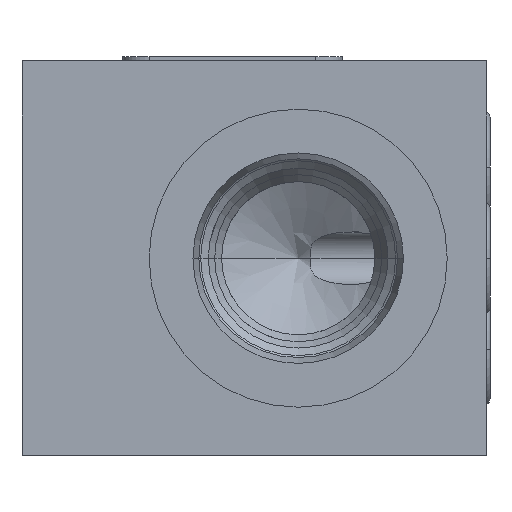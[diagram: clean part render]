
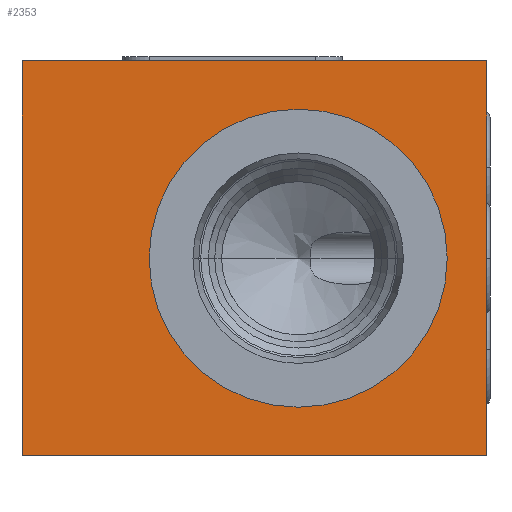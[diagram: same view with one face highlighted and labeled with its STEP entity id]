
A CAD part, left-side view. The second image highlights one B-rep face of the part: STEP entity #2353.
In plain terms, the highlighted planar face has unit normal (-1, 0, 0).
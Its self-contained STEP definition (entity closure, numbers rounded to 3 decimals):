
#53=DIRECTION('',(0.,0.,-1.));
#54=VECTOR('',#53,45.);
#55=CARTESIAN_POINT('',(0.,0.,0.));
#56=LINE('',#55,#54);
#60=DIRECTION('',(0.,1.,0.));
#61=VECTOR('',#60,53.);
#62=CARTESIAN_POINT('',(0.,0.,-45.));
#63=LINE('',#62,#61);
#67=DIRECTION('',(0.,0.,1.));
#68=VECTOR('',#67,45.);
#69=CARTESIAN_POINT('',(0.,53.,-45.));
#70=LINE('',#69,#68);
#74=DIRECTION('',(0.,-1.,0.));
#75=VECTOR('',#74,53.);
#76=CARTESIAN_POINT('',(0.,53.,0.));
#77=LINE('',#76,#75);
#81=CARTESIAN_POINT('',(0.,21.5,-22.5));
#82=DIRECTION('',(1.,0.,0.));
#83=DIRECTION('',(0.,-1.,0.));
#84=AXIS2_PLACEMENT_3D('',#81,#82,#83);
#89=CARTESIAN_POINT('',(0.,21.5,-22.5));
#90=DIRECTION('',(1.,0.,0.));
#91=DIRECTION('',(0.,1.,0.));
#92=AXIS2_PLACEMENT_3D('',#89,#90,#91);
#2095=CARTESIAN_POINT('',(0.,0.,0.));
#2096=CARTESIAN_POINT('',(0.,0.,-45.));
#2097=VERTEX_POINT('',#2095);
#2098=VERTEX_POINT('',#2096);
#2099=CARTESIAN_POINT('',(0.,53.,-45.));
#2100=VERTEX_POINT('',#2099);
#2101=CARTESIAN_POINT('',(0.,53.,0.));
#2102=VERTEX_POINT('',#2101);
#2278=CARTESIAN_POINT('',(0.,4.5,-22.5));
#2279=VERTEX_POINT('',#2278);
#2280=CARTESIAN_POINT('',(0.,38.5,-22.5));
#2281=VERTEX_POINT('',#2280);
#2332=CARTESIAN_POINT('',(0.,0.,0.));
#2333=DIRECTION('',(1.,0.,0.));
#2334=DIRECTION('',(0.,0.,-1.));
#2335=AXIS2_PLACEMENT_3D('',#2332,#2333,#2334);
#2336=PLANE('',#2335);
#2338=ORIENTED_EDGE('',*,*,#2337,.T.);
#2340=ORIENTED_EDGE('',*,*,#2339,.T.);
#2342=ORIENTED_EDGE('',*,*,#2341,.T.);
#2344=ORIENTED_EDGE('',*,*,#2343,.T.);
#2345=EDGE_LOOP('',(#2338,#2340,#2342,#2344));
#2346=FACE_OUTER_BOUND('',#2345,.F.);
#2348=ORIENTED_EDGE('',*,*,#2347,.F.);
#2350=ORIENTED_EDGE('',*,*,#2349,.F.);
#2351=EDGE_LOOP('',(#2348,#2350));
#2352=FACE_BOUND('',#2351,.F.);
#85=CIRCLE('',#84,17.);
#93=CIRCLE('',#92,17.);
#2337=EDGE_CURVE('',#2097,#2098,#56,.T.);
#2339=EDGE_CURVE('',#2098,#2100,#63,.T.);
#2341=EDGE_CURVE('',#2100,#2102,#70,.T.);
#2343=EDGE_CURVE('',#2102,#2097,#77,.T.);
#2347=EDGE_CURVE('',#2279,#2281,#85,.T.);
#2349=EDGE_CURVE('',#2281,#2279,#93,.T.);
#2353=ADVANCED_FACE('',(#2346,#2352),#2336,.F.);
